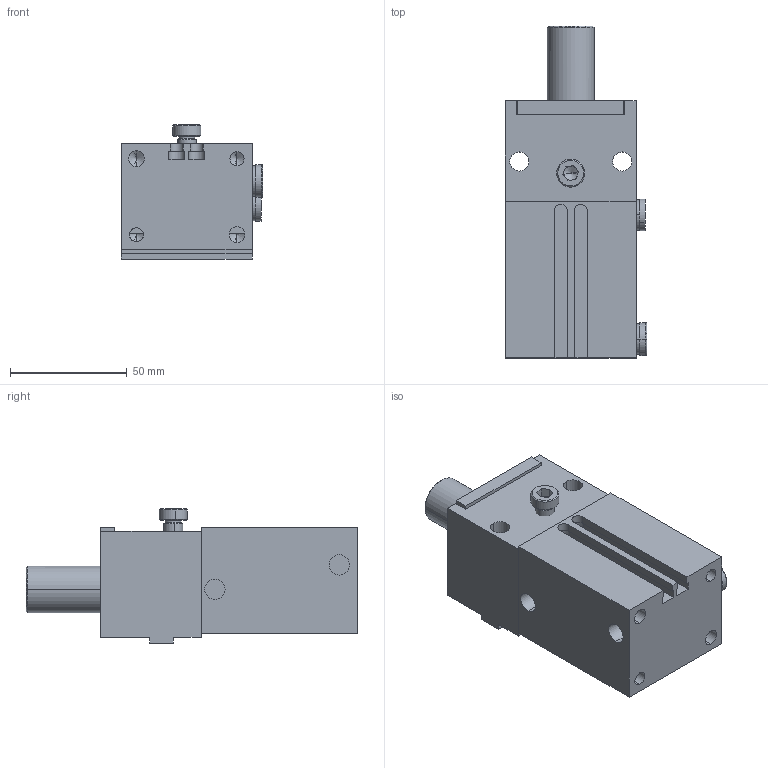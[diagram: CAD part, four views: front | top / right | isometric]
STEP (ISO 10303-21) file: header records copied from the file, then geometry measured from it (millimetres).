
FILE_DESCRIPTION (( 'STEP AP203' ), '1' );
FILE_NAME ('DIA-495-31_Indexzylinder~1.STEP', '2022-02-24T11:55:08', ( '' ), ( '' ), 'SwSTEP 2.0', 'SolidWorks 2019', '' );
FILE_SCHEMA (( 'CONFIG_CONTROL_DESIGN' ));
Length unit declared in the file: millimetre
Products named in the file (1): DIA-495-31_Indexzylinder~1
Bounding box: 60.5 x 142 x 57.5 mm (x, y, z)
Volume: 272079.4 mm3; surface area: 64647.3 mm2
Topology: 7 solids, 12 shells, 309 faces, 721 edges, 448 vertices
Faces by surface type: plane 141, cylinder 113, cone 49, torus 6
Entity records: 8826 total; most frequent: DIRECTION 1587, CARTESIAN_POINT 1542, ORIENTED_EDGE 1402, EDGE_CURVE 701, AXIS2_PLACEMENT_3D 585, VERTEX_POINT 448, VECTOR 417, LINE 417
